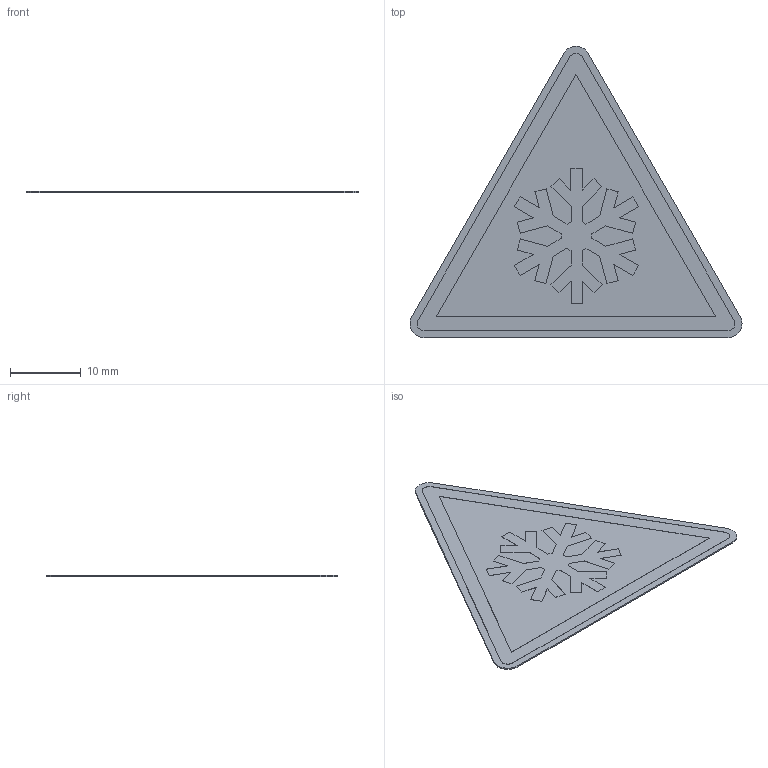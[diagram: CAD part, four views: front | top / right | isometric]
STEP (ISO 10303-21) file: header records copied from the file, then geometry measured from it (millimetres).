
FILE_DESCRIPTION (( 'STEP AP214' ), '1' );
FILE_NAME ('W010 Warnung vor niedriger Temperatur_Kälte.STEP', '2022-02-22T08:12:53', ( '' ), ( '' ), 'SwSTEP 2.0', 'SolidWorks 2021', '' );
FILE_SCHEMA (( 'AUTOMOTIVE_DESIGN' ));
Length unit declared in the file: millimetre
Products named in the file (1): W010 Warnung vor niedriger Temperatur_Kälte
Bounding box: 47.07 x 41.3 x 0.22 mm (x, y, z)
Volume: 221.5 mm3; surface area: 2183.8 mm2
Topology: 1 solids, 1 shells, 96 faces, 273 edges, 182 vertices
Faces by surface type: plane 88, cylinder 8
Entity records: 4053 total; most frequent: CARTESIAN_POINT 552, ORIENTED_EDGE 546, DIRECTION 483, EDGE_CURVE 273, LINE 257, VECTOR 257, VERTEX_POINT 182, AXIS2_PLACEMENT_3D 113
